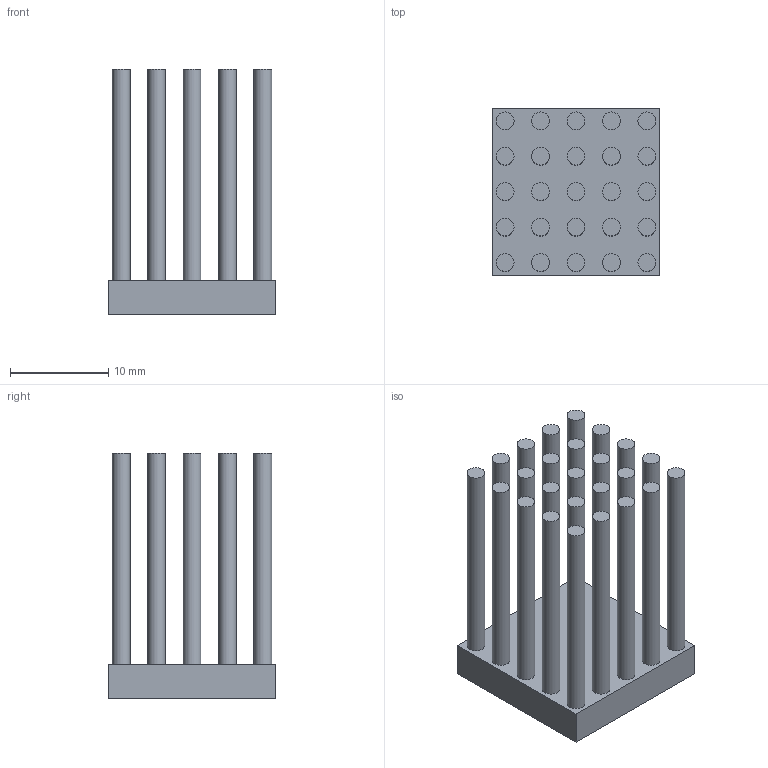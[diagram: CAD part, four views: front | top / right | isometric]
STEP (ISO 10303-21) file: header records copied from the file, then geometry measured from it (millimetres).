
FILE_DESCRIPTION(/* description */ (''),/* implementation_level */ '2;1');
FILE_NAME(/* name */ 'PB1717-B3.5-H25-P25.stp',/* time_stamp */ '2013-12-30T13:35:14+08:00',/* author */ (''),/* organization */ (''),/* preprocessor_version */ 'ST-DEVELOPER v14',/* originating_system */ 'SIEMENS PLM Software NX 8.0',/* authorisation */ '');
FILE_SCHEMA (('CONFIG_CONTROL_DESIGN'));
Length unit declared in the file: millimetre
Products named in the file (1): PB1717-P25
Bounding box: 17 x 17 x 25 mm (x, y, z)
Volume: 2379.3 mm3; surface area: 3855.5 mm2
Topology: 1 solids, 1 shells, 56 faces, 87 edges, 58 vertices
Faces by surface type: plane 31, cylinder 25
Full cylindrical faces by diameter (mm): 1.8 x25
Entity records: 1240 total; most frequent: DIRECTION 226, CARTESIAN_POINT 177, ORIENTED_EDGE 124, AXIS2_PLACEMENT_3D 107, EDGE_LOOP 106, FACE_BOUND 76, EDGE_CURVE 62, VERTEX_POINT 58
